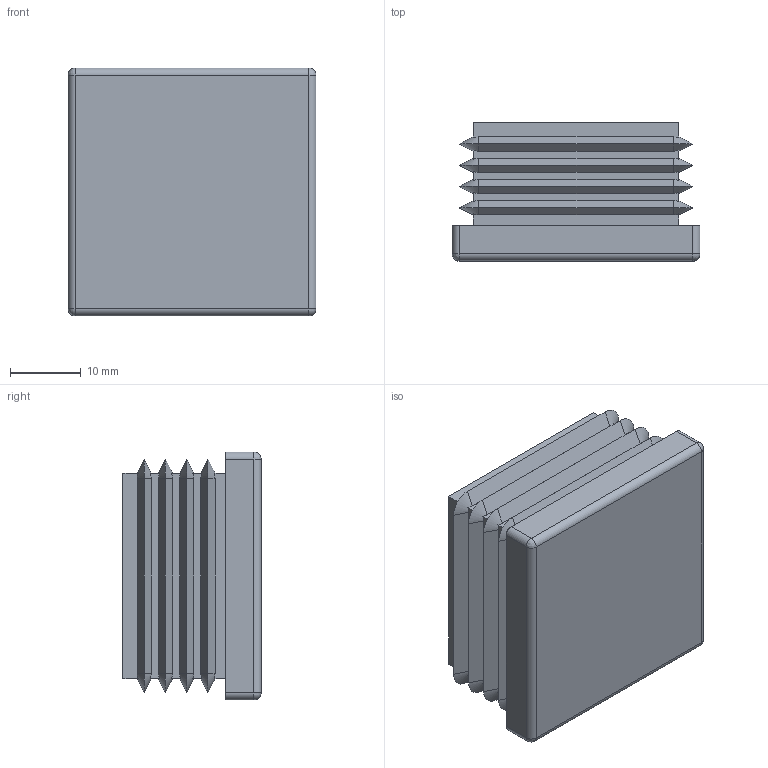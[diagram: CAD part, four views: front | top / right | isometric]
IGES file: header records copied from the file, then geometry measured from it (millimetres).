
Start section: SolidWorks IGES file using analytic representation for surfaces
Global section: file name: C:\HEMSIDA\cad\SLDPRT_2015\ifr\\ifr_35.igs; native system: SolidWorks 2015; preprocessor: SolidWorks 2015; author: Magnus; date: 150818.111759; units: millimetre
Bounding box: 35 x 19.5 x 35 mm (x, y, z)
Surface area: 7504.7 mm2 (no closed solid volume)
Topology: 0 solids, 0 shells, 108 faces, 776 edges, 772 vertices
Faces by surface type: bspline 64, revolution 44
